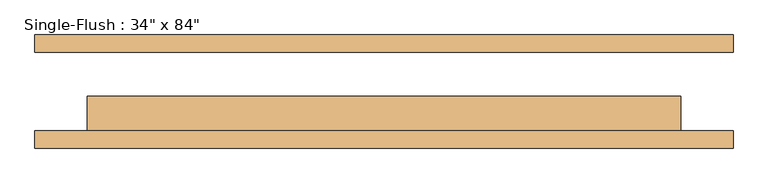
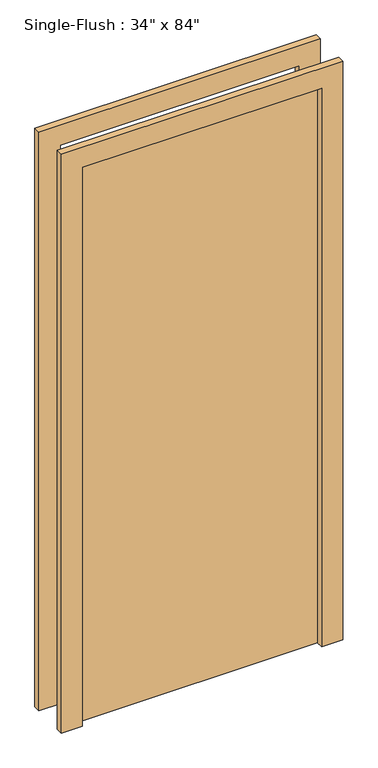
"""IFC4 building model written with IfcOpenShell, lengths in millimetres: door geometry."""

from ifc_helpers import new_model, si_unit, frame, origin, origin_with_axes, place, context, project, spatial, polyline, outline, extrude, source, transform, mapped, element, save


def door_700d3439(model_context):
    return source(origin(), model_context, "Body", "SweptSolid", [
        extrude(outline(polyline([(2209.8, -508.0), (0.0, -508.0), (0.0, -431.8), (2133.6, -431.8), (2133.6, 431.8), (0.0, 431.8), (0.0, 508.0), (2209.8, 508.0), (2209.8, -508.0)])), frame((0.0, -82.55, 0.0), z_axis=(0.0, 1.0, 0.0), x_axis=(0.0, 0.0, 1.0)), (0.0, 0.0, 1.0), 25.4),
        extrude(outline(polyline([(2209.8, 508.0), (2209.8, -508.0), (0.0, -508.0), (0.0, -431.8), (2133.6, -431.8), (2133.6, 431.8), (0.0, 431.8), (0.0, 508.0), (2209.8, 508.0)])), frame((0.0, 57.15, 0.0), z_axis=(0.0, 1.0, 0.0), x_axis=(0.0, 0.0, 1.0)), (0.0, 0.0, 1.0), 25.4),
        extrude(outline(polyline([(431.8, -6.35), (431.8, -57.15), (-431.8, -57.15), (-431.8, -6.35), (431.8, -6.35)])), origin_with_axes(), (0.0, 0.0, 1.0), 2133.6),
    ])


if __name__ == "__main__":
    model = new_model("IFC4")
    model_context = context("Model", 3, world=origin())
    ifc_project = project(units=[si_unit("LENGTHUNIT", "METRE", prefix="MILLI")], contexts=[model_context])
    site = spatial("IfcSite", under=ifc_project)
    building = spatial("IfcBuilding", under=site)
    placement = place(None, origin())
    door_shape = door_700d3439(model_context)
    element("IfcDoor", 1, ObjectType="Single-Flush : 34\" x 84\"", at=placement, inside=building, context=model_context, shape_type="MappedRepresentation", body=[
        mapped(door_shape, transform((0.0, 0.0, 0.0), x_axis=(1.0, 0.0, 0.0), y_axis=(0.0, 1.0, 0.0), z_axis=(0.0, 0.0, 1.0))),
    ])
    save(model, "model.ifc")
